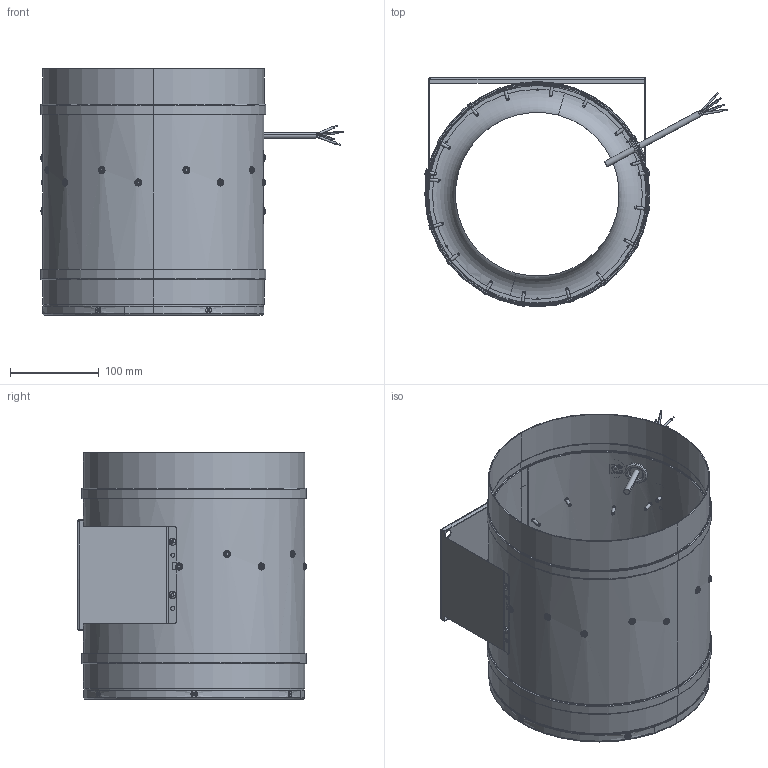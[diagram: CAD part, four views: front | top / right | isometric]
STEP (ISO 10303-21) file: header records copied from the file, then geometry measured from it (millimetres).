
FILE_DESCRIPTION (( 'STEP AP203' ), '1' );
FILE_NAME ('122238-01_EL250E2M01.STEP', '2013-10-29T10:25:57', ( '' ), ( '' ), 'SwSTEP 2.0', 'SolidWorks 2012', '' );
FILE_SCHEMA (( 'CONFIG_CONTROL_DESIGN' ));
Length unit declared in the file: millimetre
Products named in the file (1): 122238-01_EL250E2M01
Bounding box: 341.3 x 258.8 x 278 mm (x, y, z)
Surface area: 572467.7 mm2 (no closed solid volume)
Topology: 0 solids, 73 shells, 658 faces, 2116 edges, 1470 vertices
Faces by surface type: cylinder 314, plane 147, cone 100, torus 74, bspline 23
Entity records: 28114 total; most frequent: CARTESIAN_POINT 9475, DIRECTION 4166, ORIENTED_EDGE 3337, EDGE_CURVE 2116, AXIS2_PLACEMENT_3D 1766, VERTEX_POINT 1470, CIRCLE 1130, EDGE_LOOP 792
